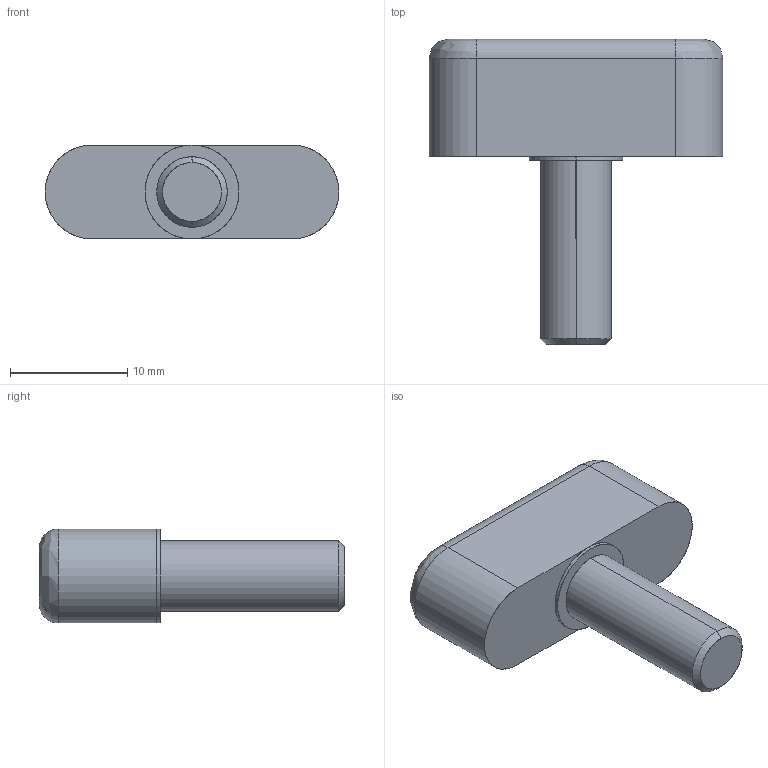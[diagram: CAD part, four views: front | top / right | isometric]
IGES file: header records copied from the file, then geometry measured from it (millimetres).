
Start section: SolidWorks IGES file using analytic representation for surfaces
Global section: file name: C:\Documents and Settings\IanO.IANOHOME\My Documents\Wix and Auto CAD Work\CAD Models\Parametric Models\Wix Models\3738\3738_IGES\3738.W061.igs; native system: SolidWorks 2009; preprocessor: SolidWorks 2009; author: IanO; date: 091209.215644; units: millimetre
Bounding box: 25 x 26 x 8 mm (x, y, z)
Surface area: 1219.7 mm2 (no closed solid volume)
Topology: 0 solids, 0 shells, 19 faces, 256 edges, 256 vertices
Faces by surface type: revolution 10, bspline 9
